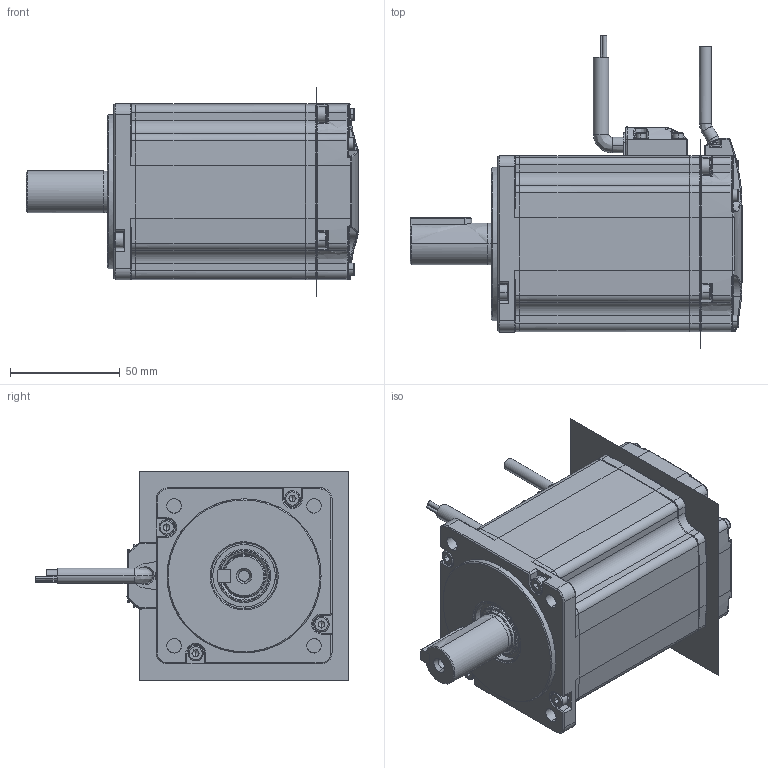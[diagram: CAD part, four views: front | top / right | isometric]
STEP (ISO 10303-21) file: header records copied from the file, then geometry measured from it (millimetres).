
FILE_DESCRIPTION(/* description */ (''),/* implementation_level */ '2;1');
FILE_NAME(/* name */ 'MXL-08~1',/* time_stamp */ '2020-07-21T15:30:39+01:00',/* author */ (''),/* organization */ (''),/* preprocessor_version */ 'ST-DEVELOPER v15',/* originating_system */ '',/* authorisation */ '');
FILE_SCHEMA (('AUTOMOTIVE_DESIGN'));
Length unit declared in the file: millimetre
Products named in the file (1): Document
Bounding box: 151 x 142.64 x 95.46 mm (x, y, z)
Surface area: 68117.9 mm2
Topology: 1 solids, 76 shells, 897 faces, 2558 edges, 1667 vertices
Faces by surface type: bspline 611, plane 286
Entity records: 40800 total; most frequent: CARTESIAN_POINT 26947, ORIENTED_EDGE 4179, EDGE_CURVE 2531, VERTEX_POINT 1675, B_SPLINE_CURVE_WITH_KNOTS 1498, EDGE_LOOP 980, ADVANCED_FACE 897, FACE_OUTER_BOUND 897
